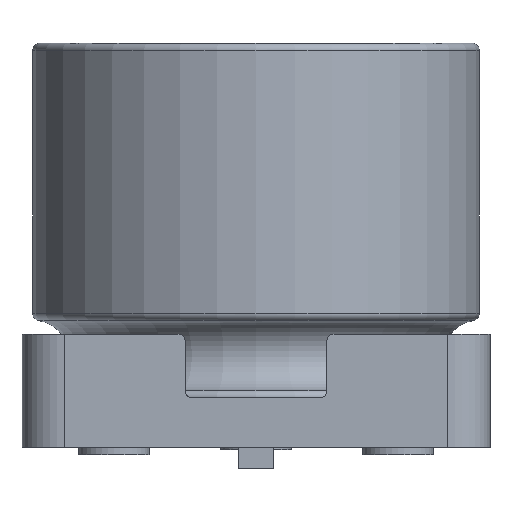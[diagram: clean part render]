
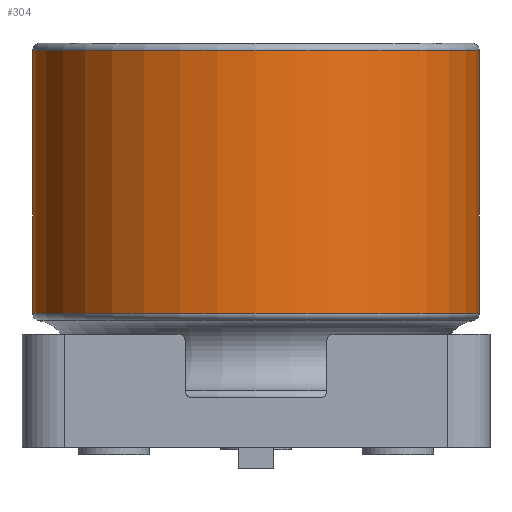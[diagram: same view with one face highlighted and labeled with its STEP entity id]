
A CAD part, left-side view. The second image highlights one B-rep face of the part: STEP entity #304.
In plain terms, the highlighted cylindrical face has radius 3.15 mm (diameter 6.3 mm), a full revolution.
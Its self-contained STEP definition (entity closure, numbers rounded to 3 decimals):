
#205=CYLINDRICAL_SURFACE('',#1434,3.15);
#244=FACE_BOUND('',#486,.T.);
#245=FACE_BOUND('',#487,.T.);
#304=ADVANCED_FACE('',(#244,#245),#205,.T.);
#486=EDGE_LOOP('',(#805));
#487=EDGE_LOOP('',(#806));
#556=CIRCLE('',#1432,3.15);
#557=CIRCLE('',#1433,3.15);
#805=ORIENTED_EDGE('',*,*,#1122,.T.);
#806=ORIENTED_EDGE('',*,*,#1123,.T.);
#973=VERTEX_POINT('',#2211);
#974=VERTEX_POINT('',#2213);
#1122=EDGE_CURVE('',#973,#973,#556,.T.);
#1123=EDGE_CURVE('',#974,#974,#557,.T.);
#1432=AXIS2_PLACEMENT_3D('',#2210,#1713,#1714);
#1433=AXIS2_PLACEMENT_3D('',#2212,#1715,#1716);
#1434=AXIS2_PLACEMENT_3D('',#2214,#1717,#1718);
#1713=DIRECTION('',(0.,0.,1.));
#1714=DIRECTION('',(1.,0.,0.));
#1715=DIRECTION('',(0.,0.,-1.));
#1716=DIRECTION('',(-1.,0.,0.));
#1717=DIRECTION('',(0.,0.,-1.));
#1718=DIRECTION('',(-1.,0.,0.));
#2210=CARTESIAN_POINT('',(0.,0.,1.892));
#2211=CARTESIAN_POINT('',(3.15,0.,1.892));
#2212=CARTESIAN_POINT('',(0.,0.,5.6));
#2213=CARTESIAN_POINT('',(-3.15,0.,5.6));
#2214=CARTESIAN_POINT('',(0.,0.,0.));
